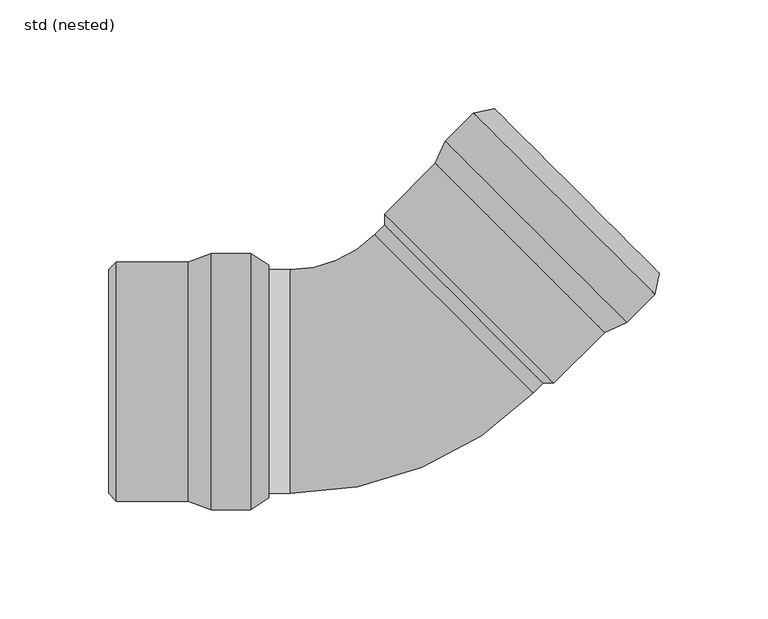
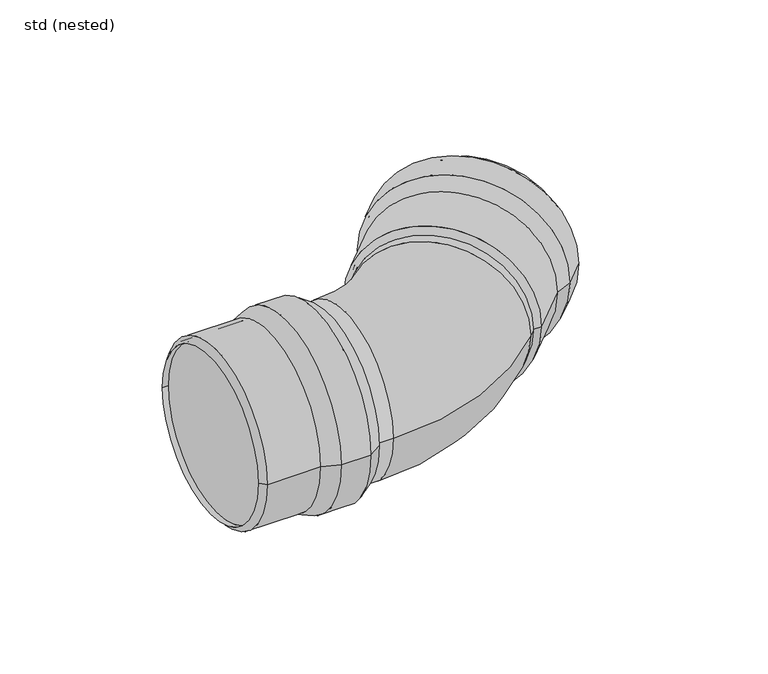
"""IFC4 building model written with IfcOpenShell, lengths in millimetres: pipe fitting geometry, ZZZ_do not use_PIF_ST_UN_GM-X pipe bend_ACO : std (nested)."""

from ifc_helpers import new_model, si_unit, point, frame, origin, place, context, project, spatial, polyline, circle_curve, ellipse_curve, trimmed, source, transform, mapped, element, save
from ifc_brep_helpers import plane_surface, cylinder_surface, revolved_surface, advanced_brep


def std_nested_01edd257(model_context):
    return source(origin(), model_context, "Body", "AdvancedBrep", [
        advanced_brep(
        [(-80.5, -59.0, 0.0), (-80.5, 59.0, 0.0), (-62.3, 59.0, 0.0), (-62.3, -59.0, 0.0), (-91.0, -55.0, 0.0), (-91.0, 55.0, 0.0), (-54.0, 53.5, 0.0), (-54.0, -53.5, 0.0), (-124.0, -55.0, 0.0), (-124.0, 55.0, 0.0), (-127.5, -51.5, 0.0), (-127.5, 51.5, 0.0), (-124.0, -51.5, 0.0), (-124.0, 51.5, 0.0), (-90.6319487, -53.0, 0.0), (-90.6319487, 53.0, 0.0), (-124.0, 53.0, 0.0), (-124.0, -53.0, 0.0), (-80.1319487, -57.0, 0.0), (-80.1319487, 57.0, 0.0), (-62.9025117, -57.0, 0.0), (-62.9025117, 57.0, 0.0), (-55.1047607, -51.8328156, 0.0), (-55.1047607, 51.8328156, 0.0)],
        [
            (0, 1, circle_curve(frame((-80.5, 0.0, 0.0), z_axis=(1.0, 0.0, 0.0), x_axis=(0.0, 1.0, 0.0)), 59.0)),
            (1, 2),
            (2, 3, circle_curve(frame((-62.3, 0.0, 0.0), z_axis=(-1.0, 0.0, 0.0), x_axis=(0.0, 1.0, 0.0)), 59.0)),
            (3, 0),
            (1, 0, circle_curve(frame((-80.5, 0.0, 0.0), z_axis=(1.0, 0.0, 0.0), x_axis=(0.0, 1.0, 0.0)), 59.0)),
            (3, 2, circle_curve(frame((-62.3, 0.0, 0.0), z_axis=(-1.0, 0.0, 0.0), x_axis=(0.0, 1.0, 0.0)), 59.0)),
            (4, 5, circle_curve(frame((-91.0, 0.0, 0.0), z_axis=(1.0, 0.0, 0.0), x_axis=(0.0, 1.0, 0.0)), 55.0)),
            (5, 1),
            (0, 4),
            (5, 4, circle_curve(frame((-91.0, 0.0, 0.0), z_axis=(1.0, 0.0, 0.0), x_axis=(0.0, 1.0, 0.0)), 55.0)),
            (2, 6),
            (6, 7, circle_curve(frame((-54.0, 0.0, 0.0), z_axis=(-1.0, 0.0, 0.0), x_axis=(0.0, 1.0, 0.0)), 53.5)),
            (7, 3),
            (7, 6, circle_curve(frame((-54.0, 0.0, 0.0), z_axis=(-1.0, 0.0, 0.0), x_axis=(0.0, 1.0, 0.0)), 53.5)),
            (8, 9, circle_curve(frame((-124.0, 0.0, 0.0), z_axis=(1.0, 0.0, 0.0), x_axis=(0.0, 1.0, 0.0)), 55.0)),
            (9, 5),
            (4, 8),
            (9, 8, circle_curve(frame((-124.0, 0.0, 0.0), z_axis=(1.0, 0.0, 0.0), x_axis=(0.0, 1.0, 0.0)), 55.0)),
            (10, 11, circle_curve(frame((-127.5, 0.0, 0.0), z_axis=(1.0, 0.0, 0.0), x_axis=(0.0, 1.0, 0.0)), 51.5)),
            (11, 9),
            (8, 10),
            (11, 10, circle_curve(frame((-127.5, 0.0, 0.0), z_axis=(1.0, 0.0, 0.0), x_axis=(0.0, 1.0, 0.0)), 51.5)),
            (12, 13, circle_curve(frame((-124.0, 0.0, 0.0), z_axis=(1.0, 0.0, 0.0), x_axis=(0.0, 1.0, 0.0)), 51.5)),
            (13, 11),
            (10, 12),
            (13, 12, circle_curve(frame((-124.0, 0.0, 0.0), z_axis=(1.0, 0.0, 0.0), x_axis=(0.0, 1.0, 0.0)), 51.5)),
            (14, 15, circle_curve(frame((-90.6319487, 0.0, 0.0), z_axis=(1.0, 0.0, 0.0), x_axis=(0.0, 1.0, 0.0)), 53.0)),
            (15, 16),
            (16, 17, circle_curve(frame((-124.0, 0.0, 0.0), z_axis=(-1.0, 0.0, 0.0), x_axis=(0.0, 1.0, 0.0)), 53.0)),
            (17, 14),
            (15, 14, circle_curve(frame((-90.6319487, 0.0, 0.0), z_axis=(1.0, 0.0, 0.0), x_axis=(0.0, 1.0, 0.0)), 53.0)),
            (17, 16, circle_curve(frame((-124.0, 0.0, 0.0), z_axis=(-1.0, 0.0, 0.0), x_axis=(0.0, 1.0, 0.0)), 53.0)),
            (18, 19, circle_curve(frame((-80.1319487, 0.0, 0.0), z_axis=(1.0, 0.0, 0.0), x_axis=(0.0, 1.0, 0.0)), 57.0)),
            (19, 15),
            (14, 18),
            (19, 18, circle_curve(frame((-80.1319487, 0.0, 0.0), z_axis=(1.0, 0.0, 0.0), x_axis=(0.0, 1.0, 0.0)), 57.0)),
            (20, 21, circle_curve(frame((-62.9025117, 0.0, 0.0), z_axis=(1.0, 0.0, 0.0), x_axis=(0.0, 1.0, 0.0)), 57.0)),
            (21, 19),
            (18, 20),
            (21, 20, circle_curve(frame((-62.9025117, 0.0, 0.0), z_axis=(1.0, 0.0, 0.0), x_axis=(0.0, 1.0, 0.0)), 57.0)),
            (22, 23, circle_curve(frame((-55.1047607, 0.0, 0.0), z_axis=(1.0, 0.0, 0.0), x_axis=(0.0, 1.0, 0.0)), 51.8328156)),
            (23, 21),
            (20, 22),
            (23, 22, circle_curve(frame((-55.1047607, 0.0, 0.0), z_axis=(1.0, 0.0, 0.0), x_axis=(0.0, 1.0, 0.0)), 51.8328156)),
            (6, 23),
            (22, 7),
            (16, 13),
            (12, 17),
        ],
        [
            cylinder_surface(frame((-57.3555883, 0.0, 0.0), z_axis=(-1.0, 0.0, 0.0), x_axis=(0.0, 1.0, 0.0)), 59.0),
            revolved_surface(polyline([(-80.5, 59.0, 0.0), (-91.0, 55.0, 0.0)]), (-57.3555883, 0.0, 0.0), (-1.0, 0.0, 0.0)),
            revolved_surface(polyline([(-54.0, 53.5, 0.0), (-62.3, 59.0, 0.0)]), (-57.3555883, 0.0, 0.0), (-1.0, 0.0, 0.0)),
            cylinder_surface(frame((-57.3555883, 0.0, 0.0), z_axis=(-1.0, 0.0, 0.0), x_axis=(0.0, 1.0, 0.0)), 55.0),
            revolved_surface(polyline([(-124.0, 55.0, 0.0), (-127.5, 51.5, 0.0)]), (-57.3555883, 0.0, 0.0), (-1.0, 0.0, 0.0)),
            revolved_surface(polyline([(-127.5, 51.5, 0.0), (-124.0, 51.5, 0.0)]), (-57.3555883, 0.0, 0.0), (-1.0, 0.0, 0.0)),
            revolved_surface(polyline([(-124.0, 53.0, 0.0), (-90.6319487, 53.0, 0.0)]), (-57.3555883, 0.0, 0.0), (-1.0, 0.0, 0.0)),
            revolved_surface(polyline([(-90.6319487, 53.0, 0.0), (-80.1319487, 57.0, 0.0)]), (-57.3555883, 0.0, 0.0), (-1.0, 0.0, 0.0)),
            revolved_surface(polyline([(-80.1319487, 57.0, 0.0), (-62.9025117, 57.0, 0.0)]), (-57.3555883, 0.0, 0.0), (-1.0, 0.0, 0.0)),
            revolved_surface(polyline([(-62.9025117, 57.0, 0.0), (-55.1047607, 51.8328156, 0.0)]), (-57.3555883, 0.0, 0.0), (-1.0, 0.0, 0.0)),
            revolved_surface(polyline([(-55.1047607, 51.8328156, 0.0), (-54.0, 53.5, 0.0)]), (-57.3555883, 0.0, 0.0), (-1.0, 0.0, 0.0)),
            plane_surface(frame((-124.0, 0.0, 0.0), z_axis=(1.0, 0.0, 0.0), x_axis=(0.0, 1.0, 0.0))),
        ],
        [
            (0, [[1, 2, 3, 4]]),
            (0, [[5, -4, 6, -2]]),
            (1, [[7, 8, -1, 9]]),
            (1, [[10, -9, -5, -8]]),
            (2, [[-3, 11, 12, 13]]),
            (2, [[-6, -13, 14, -11]]),
            (3, [[15, 16, -7, 17]]),
            (3, [[18, -17, -10, -16]]),
            (4, [[19, 20, -15, 21]]),
            (4, [[22, -21, -18, -20]]),
            (5, [[23, 24, -19, 25]]),
            (5, [[26, -25, -22, -24]]),
            (6, [[27, 28, 29, 30]]),
            (6, [[31, -30, 32, -28]]),
            (7, [[33, 34, -27, 35]]),
            (7, [[36, -35, -31, -34]]),
            (8, [[37, 38, -33, 39]]),
            (8, [[40, -39, -36, -38]]),
            (9, [[41, 42, -37, 43]]),
            (9, [[44, -43, -40, -42]]),
            (10, [[-12, 45, -41, 46]]),
            (10, [[-14, -46, -44, -45]]),
            (11, [[-29, 47, -23, 48]]),
            (11, [[-32, -48, -26, -47]]),
        ],
    ),
        advanced_brep(
        [(110.6622113, 27.2236111, 0.0), (27.2236111, 110.6622113, 0.0), (40.0929545, 123.5315547, 0.0), (123.5315547, 40.0929545, 0.0), (100.4091629, 22.627417, 0.0), (22.627417, 100.4091629, 0.0), (49.8510281, 125.5114537, 0.0), (125.5114537, 49.8510281, 0.0), (77.0746391, -0.7071068, 0.0), (-0.7071068, 77.0746391, 0.0), (72.1248917, -0.7071068, 0.0), (-0.7071068, 72.1248917, 0.0), (74.5997654, 1.767767, 0.0), (1.767767, 74.5997654, 0.0), (99.2552009, 24.3018821, 0.0), (24.3018821, 99.2552009, 0.0), (0.7071068, 75.6604256, 0.0), (75.6604256, 0.7071068, 0.0), (109.5082492, 28.8980762, 0.0), (28.8980762, 109.5082492, 0.0), (121.691301, 41.081128, 0.0), (41.081128, 121.691301, 0.0), (123.5513925, 50.2487216, 0.0), (50.2487216, 123.5513925, 0.0)],
        [
            (0, 1, circle_curve(frame((68.9429112, 68.9429112, 0.0), z_axis=(0.7071067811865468, 0.7071067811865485, 0.0), x_axis=(-0.7071067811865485, 0.7071067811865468, 0.0)), 59.0)),
            (1, 2),
            (2, 3, circle_curve(frame((81.8122546, 81.8122546, 0.0), z_axis=(-0.7071067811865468, -0.7071067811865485, 0.0), x_axis=(-0.7071067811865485, 0.7071067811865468, 0.0)), 59.0)),
            (3, 0),
            (1, 0, circle_curve(frame((68.9429112, 68.9429112, 0.0), z_axis=(0.7071067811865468, 0.7071067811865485, 0.0), x_axis=(-0.7071067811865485, 0.7071067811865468, 0.0)), 59.0)),
            (3, 2, circle_curve(frame((81.8122546, 81.8122546, 0.0), z_axis=(-0.7071067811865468, -0.7071067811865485, 0.0), x_axis=(-0.7071067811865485, 0.7071067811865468, 0.0)), 59.0)),
            (4, 5, circle_curve(frame((61.51829, 61.51829, 0.0), z_axis=(0.7071067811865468, 0.7071067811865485, 0.0), x_axis=(-0.7071067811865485, 0.7071067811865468, 0.0)), 55.0)),
            (5, 1),
            (0, 4),
            (5, 4, circle_curve(frame((61.51829, 61.51829, 0.0), z_axis=(0.7071067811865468, 0.7071067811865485, 0.0), x_axis=(-0.7071067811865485, 0.7071067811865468, 0.0)), 55.0)),
            (2, 6),
            (6, 7, circle_curve(frame((87.6812409, 87.6812409, 0.0), z_axis=(-0.7071067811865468, -0.7071067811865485, 0.0), x_axis=(-0.7071067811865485, 0.7071067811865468, 0.0)), 53.5)),
            (7, 3),
            (7, 6, circle_curve(frame((87.6812409, 87.6812409, 0.0), z_axis=(-0.7071067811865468, -0.7071067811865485, 0.0), x_axis=(-0.7071067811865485, 0.7071067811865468, 0.0)), 53.5)),
            (8, 9, circle_curve(frame((38.1837662, 38.1837662, 0.0), z_axis=(0.7071067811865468, 0.7071067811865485, 0.0), x_axis=(-0.7071067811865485, 0.7071067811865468, 0.0)), 55.0)),
            (9, 5),
            (4, 8),
            (9, 8, circle_curve(frame((38.1837662, 38.1837662, 0.0), z_axis=(0.7071067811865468, 0.7071067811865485, 0.0), x_axis=(-0.7071067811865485, 0.7071067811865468, 0.0)), 55.0)),
            (10, 11, circle_curve(frame((35.7088924, 35.7088924, 0.0), z_axis=(0.7071067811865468, 0.7071067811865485, 0.0), x_axis=(-0.7071067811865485, 0.7071067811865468, 0.0)), 51.5)),
            (11, 9),
            (8, 10),
            (11, 10, circle_curve(frame((35.7088924, 35.7088924, 0.0), z_axis=(0.7071067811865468, 0.7071067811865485, 0.0), x_axis=(-0.7071067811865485, 0.7071067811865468, 0.0)), 51.5)),
            (12, 13, circle_curve(frame((38.1837662, 38.1837662, 0.0), z_axis=(0.7071067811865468, 0.7071067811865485, 0.0), x_axis=(-0.7071067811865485, 0.7071067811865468, 0.0)), 51.5)),
            (13, 11),
            (10, 12),
            (13, 12, circle_curve(frame((38.1837662, 38.1837662, 0.0), z_axis=(0.7071067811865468, 0.7071067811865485, 0.0), x_axis=(-0.7071067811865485, 0.7071067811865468, 0.0)), 51.5)),
            (14, 15, circle_curve(frame((61.7785415, 61.7785415, 0.0), z_axis=(0.7071067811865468, 0.7071067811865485, 0.0), x_axis=(-0.7071067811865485, 0.7071067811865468, 0.0)), 53.0)),
            (15, 16),
            (16, 17, circle_curve(frame((38.1837662, 38.1837662, 0.0), z_axis=(-0.7071067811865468, -0.7071067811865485, 0.0), x_axis=(-0.7071067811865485, 0.7071067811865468, 0.0)), 53.0)),
            (17, 14),
            (15, 14, circle_curve(frame((61.7785415, 61.7785415, 0.0), z_axis=(0.7071067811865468, 0.7071067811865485, 0.0), x_axis=(-0.7071067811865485, 0.7071067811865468, 0.0)), 53.0)),
            (17, 16, circle_curve(frame((38.1837662, 38.1837662, 0.0), z_axis=(-0.7071067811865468, -0.7071067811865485, 0.0), x_axis=(-0.7071067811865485, 0.7071067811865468, 0.0)), 53.0)),
            (18, 19, circle_curve(frame((69.2031627, 69.2031627, 0.0), z_axis=(0.7071067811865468, 0.7071067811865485, 0.0), x_axis=(-0.7071067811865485, 0.7071067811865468, 0.0)), 57.0)),
            (19, 15),
            (14, 18),
            (19, 18, circle_curve(frame((69.2031627, 69.2031627, 0.0), z_axis=(0.7071067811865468, 0.7071067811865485, 0.0), x_axis=(-0.7071067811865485, 0.7071067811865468, 0.0)), 57.0)),
            (20, 21, circle_curve(frame((81.3862145, 81.3862145, 0.0), z_axis=(0.7071067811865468, 0.7071067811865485, 0.0), x_axis=(-0.7071067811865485, 0.7071067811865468, 0.0)), 57.0)),
            (21, 19),
            (18, 20),
            (21, 20, circle_curve(frame((81.3862145, 81.3862145, 0.0), z_axis=(0.7071067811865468, 0.7071067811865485, 0.0), x_axis=(-0.7071067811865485, 0.7071067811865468, 0.0)), 57.0)),
            (22, 23, circle_curve(frame((86.9000571, 86.9000571, 0.0), z_axis=(0.7071067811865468, 0.7071067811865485, 0.0), x_axis=(-0.7071067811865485, 0.7071067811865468, 0.0)), 51.8328156)),
            (23, 21),
            (20, 22),
            (23, 22, circle_curve(frame((86.9000571, 86.9000571, 0.0), z_axis=(0.7071067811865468, 0.7071067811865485, 0.0), x_axis=(-0.7071067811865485, 0.7071067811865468, 0.0)), 51.8328156)),
            (6, 23),
            (22, 7),
            (16, 13),
            (12, 17),
        ],
        [
            cylinder_surface(frame((85.3084816, 85.3084816, 0.0), z_axis=(-0.7071067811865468, -0.7071067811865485, 0.0), x_axis=(-0.7071067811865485, 0.7071067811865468, 0.0)), 59.0),
            revolved_surface(polyline([(27.2236111, 110.6622113, 0.0), (22.627417, 100.4091629, 0.0)]), (85.3084816, 85.3084816, 0.0), (-0.7071067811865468, -0.7071067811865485, 0.0)),
            revolved_surface(polyline([(49.8510281, 125.5114537, 0.0), (40.0929545, 123.5315547, 0.0)]), (85.3084816, 85.3084816, 0.0), (-0.7071067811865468, -0.7071067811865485, 0.0)),
            cylinder_surface(frame((85.3084816, 85.3084816, 0.0), z_axis=(-0.7071067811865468, -0.7071067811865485, 0.0), x_axis=(-0.7071067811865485, 0.7071067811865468, 0.0)), 55.0),
            revolved_surface(polyline([(-0.7071068, 77.0746391, 0.0), (-0.7071068, 72.1248917, 0.0)]), (85.3084816, 85.3084816, 0.0), (-0.7071067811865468, -0.7071067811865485, 0.0)),
            revolved_surface(polyline([(-0.7071068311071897, 72.12489163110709, 0.0), (1.7677669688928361, 74.59976543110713, 0.0)]), (85.3084816, 85.3084816, 0.0), (-0.7071067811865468, -0.7071067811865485, 0.0)),
            revolved_surface(polyline([(0.7071067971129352, 75.66042560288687, 0.0), (24.301882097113, 99.255200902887, 0.0)]), (85.3084816, 85.3084816, 0.0), (-0.7071067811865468, -0.7071067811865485, 0.0)),
            revolved_surface(polyline([(24.3018821, 99.2552009, 0.0), (28.8980762, 109.5082492, 0.0)]), (85.3084816, 85.3084816, 0.0), (-0.7071067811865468, -0.7071067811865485, 0.0)),
            revolved_surface(polyline([(28.8980761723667, 109.50824922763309, 0.0), (41.08112797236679, 121.6913010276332, 0.0)]), (85.3084816, 85.3084816, 0.0), (-0.7071067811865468, -0.7071067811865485, 0.0)),
            revolved_surface(polyline([(41.081128, 121.691301, 0.0), (50.2487216, 123.5513925, 0.0)]), (85.3084816, 85.3084816, 0.0), (-0.7071067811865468, -0.7071067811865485, 0.0)),
            revolved_surface(polyline([(50.2487216, 123.5513925, 0.0), (49.8510281, 125.5114537, 0.0)]), (85.3084816, 85.3084816, 0.0), (-0.7071067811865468, -0.7071067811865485, 0.0)),
            plane_surface(frame((38.1837662, 38.1837662, 0.0), z_axis=(0.7071067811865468, 0.7071067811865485, 0.0), x_axis=(-0.7071067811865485, 0.7071067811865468, 0.0))),
        ],
        [
            (0, [[1, 2, 3, 4]]),
            (0, [[5, -4, 6, -2]]),
            (1, [[7, 8, -1, 9]]),
            (1, [[10, -9, -5, -8]]),
            (2, [[-3, 11, 12, 13]]),
            (2, [[-6, -13, 14, -11]]),
            (3, [[15, 16, -7, 17]]),
            (3, [[18, -17, -10, -16]]),
            (4, [[19, 20, -15, 21]]),
            (4, [[22, -21, -18, -20]]),
            (5, [[23, 24, -19, 25]]),
            (5, [[26, -25, -22, -24]]),
            (6, [[27, 28, 29, 30]]),
            (6, [[31, -30, 32, -28]]),
            (7, [[33, 34, -27, 35]]),
            (7, [[36, -35, -31, -34]]),
            (8, [[37, 38, -33, 39]]),
            (8, [[40, -39, -36, -38]]),
            (9, [[41, 42, -37, 43]]),
            (9, [[44, -43, -40, -42]]),
            (10, [[-12, 45, -41, 46]]),
            (10, [[-14, -46, -44, -45]]),
            (11, [[-29, 47, -23, 48]]),
            (11, [[-32, -48, -26, -47]]),
        ],
    ),
        advanced_brep(
        [(-5.3033009, 67.5286976, 0.0), (-44.0, 51.5, 0.0), (-44.0, -51.5, 0.0), (67.5286976, -5.3033009, 0.0), (31.1126984, 31.1126984, 51.5), (31.1126984, 31.1126984, -51.5), (-124.0, -51.5, 0.0), (-124.0, 51.5, 0.0), (74.5997654, 1.767767, 0.0), (1.767767, 74.5997654, 0.0)],
        [
            (0, 1, circle_curve(frame((-44.0, 106.2253967, 0.0), z_axis=(0.0, 0.0, -1.0), x_axis=(0.0, -1.0, 0.0)), 54.7253967)),
            (1, 2, circle_curve(frame((-44.0, 0.0, 0.0), z_axis=(1.0, 0.0, 0.0), x_axis=(0.0, 1.0, 0.0)), 51.5)),
            (2, 3, circle_curve(frame((-44.0, 106.2253967, 0.0), z_axis=(0.0, 0.0, 1.0), x_axis=(0.0, -1.0, 0.0)), 157.7253967)),
            (3, 4, circle_curve(frame((31.1126984, 31.1126984, 0.0), z_axis=(-0.7071067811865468, -0.7071067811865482, 0.0), x_axis=(-0.7071067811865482, 0.7071067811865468, 0.0)), 51.5)),
            (4, 0, circle_curve(frame((31.1126984, 31.1126984, 0.0), z_axis=(-0.7071067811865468, -0.7071067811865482, 0.0), x_axis=(-0.7071067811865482, 0.7071067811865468, 0.0)), 51.5)),
            (0, 5, circle_curve(frame((31.1126984, 31.1126984, 0.0), z_axis=(-0.7071067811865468, -0.7071067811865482, 0.0), x_axis=(-0.7071067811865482, 0.7071067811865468, 0.0)), 51.5)),
            (5, 3, circle_curve(frame((31.1126984, 31.1126984, 0.0), z_axis=(-0.7071067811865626, -0.7071067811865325, 0.0), x_axis=(-0.7071067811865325, 0.7071067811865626, 0.0)), 51.5)),
            (2, 1, circle_curve(frame((-44.0, 0.0, 0.0), z_axis=(1.0, 0.0, 0.0), x_axis=(0.0, 1.0, 0.0)), 51.5)),
            (6, 7, circle_curve(frame((-124.0, 0.0, 0.0), z_axis=(-1.0, 0.0, 0.0), x_axis=(0.0, 1.0, 0.0)), 51.5)),
            (7, 6, circle_curve(frame((-124.0, 0.0, 0.0), z_axis=(-1.0, 0.0, 0.0), x_axis=(0.0, 1.0, 0.0)), 51.5)),
            (7, 1),
            (2, 6),
            (8, 9, circle_curve(frame((38.1837662, 38.1837662, 0.0), z_axis=(0.7071067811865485, 0.7071067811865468, 0.0), x_axis=(-0.7071067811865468, 0.7071067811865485, 0.0)), 51.5)),
            (9, 8, circle_curve(frame((38.1837662, 38.1837662, 0.0), z_axis=(0.7071067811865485, 0.7071067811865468, 0.0), x_axis=(-0.7071067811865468, 0.7071067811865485, 0.0)), 51.5)),
            (9, 0),
            (3, 8),
        ],
        [
            revolved_surface(trimmed(ellipse_curve(frame((-44.0, 0.0, 0.0), z_axis=(-1.0, 0.0, 0.0), x_axis=(0.0, 1.0, 0.0)), 51.5, 51.5), [point((-44.0, -51.5, 0.0))], [point((-44.0, 51.5, 0.0))], True, "CARTESIAN"), (-44.0, 106.2253967, 0.0), (0.0, 0.0, 1.0)),
            revolved_surface(trimmed(ellipse_curve(frame((-44.0, 0.0, 0.0), z_axis=(-1.0, 0.0, 0.0), x_axis=(0.0, 1.0, 0.0)), 51.5, 51.5), [point((-44.0, 51.5, 0.0))], [point((-44.0, -51.5, 0.0))], True, "CARTESIAN"), (-44.0, 106.2253967, 0.0), (0.0, 0.0, 1.0)),
            plane_surface(frame((-124.0, 51.5, 0.0), z_axis=(-1.0, 0.0, 0.0), x_axis=(0.0, 0.0, -1.0))),
            cylinder_surface(frame((-124.0, 0.0, 0.0), z_axis=(1.0, 0.0, 0.0), x_axis=(0.0, 1.0, 0.0)), 51.5),
            plane_surface(frame((38.1837662, 38.1837662, 0.0), z_axis=(0.7071067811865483, 0.7071067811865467, 0.0), x_axis=(0.0, 0.0, 1.0))),
            cylinder_surface(frame((31.1126984, 31.1126984, 0.0), z_axis=(-0.7071067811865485, -0.7071067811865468, 0.0), x_axis=(-0.7071067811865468, 0.7071067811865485, 0.0)), 51.5),
        ],
        [
            (0, [[1, 2, 3, 4, 5]]),
            (1, [[-1, 6, 7, -3, 8]]),
            (2, [[9, 10]]),
            (3, [[-10, 11, -8, 12]]),
            (3, [[-9, -12, -2, -11]]),
            (4, [[13, 14]]),
            (5, [[-14, 15, -5, -4, 16]]),
            (5, [[-13, -16, -7, -6, -15]]),
        ],
    ),
    ])


if __name__ == "__main__":
    model = new_model("IFC4")
    model_context = context("Model", 3, world=origin())
    ifc_project = project(units=[si_unit("LENGTHUNIT", "METRE", prefix="MILLI")], contexts=[model_context])
    site = spatial("IfcSite", under=ifc_project)
    building = spatial("IfcBuilding", under=site)
    placement = place(None, origin())
    std_nested_shape = std_nested_01edd257(model_context)
    element("IfcPipeFitting", 1, ObjectType="ZZZ_do not use_PIF_ST_UN_GM-X pipe bend_ACO : std (nested)", at=placement, inside=building, context=model_context, shape_type="MappedRepresentation", body=[
        mapped(std_nested_shape, transform((0.0, 0.0, 0.0), x_axis=(1.0, 0.0, 0.0), y_axis=(0.0, 1.0, 0.0), z_axis=(0.0, 0.0, 1.0))),
    ])
    save(model, "model.ifc")
